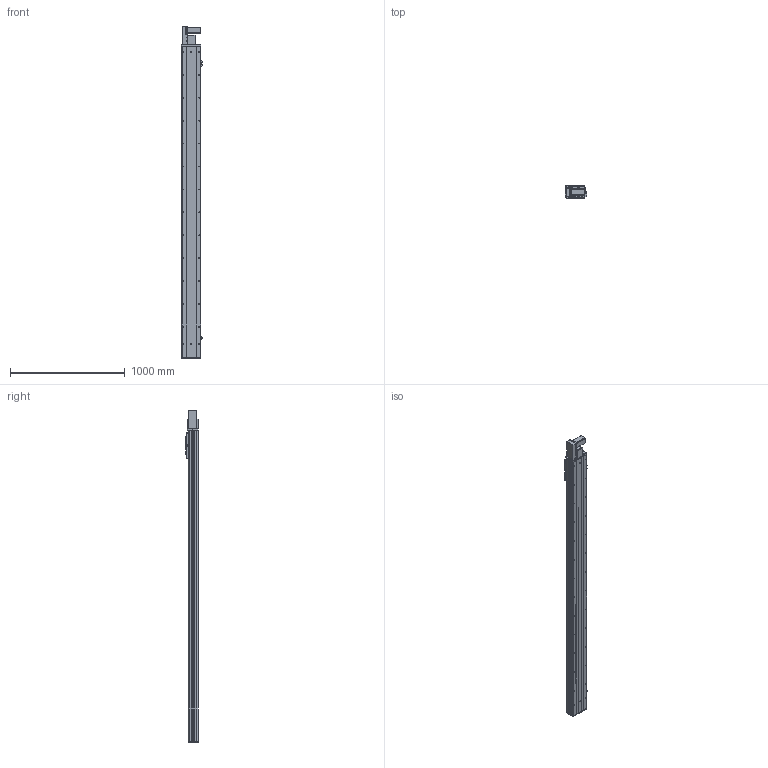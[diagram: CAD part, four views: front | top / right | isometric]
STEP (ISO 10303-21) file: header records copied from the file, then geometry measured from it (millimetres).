
FILE_DESCRIPTION (( 'STEP AP203' ), '1' );
FILE_NAME ('Y170CB-D105-S2400-BL-P400W.STEP', '2020-02-20T01:44:56', ( '微软用户' ), ( '微软中国' ), 'SwSTEP 2.0', 'SolidWorks 2017', '' );
FILE_SCHEMA (( 'CONFIG_CONTROL_DESIGN' ));
Length unit declared in the file: millimetre
Products named in the file (18): 70CB-詩湍--; Y70俋欶BR----; Y100-135俋离換覜ん--; 70CB-掛极-; Y170CB-陔俋离換覜結え---; --70CB --喘謫眊楊擘啣-; 70B喘謫眊----; 70CB-耜裔啣-; Y1埴倛裔; 70C--詩湍揤踡え-; B-源倛裔啣; Y170CB-D105-S2400-BL-P400W; 70CB--耜裔; 17B-耜蚾蟀諉啣----; 70C-雄赽釱-奻-; 0B-萇儂楊擘啣; 0C--雄赽釱俋欶-170; san松下电机400不带刹车----
Assembly tree (21 placements, depth 2):
  Y170CB-D105-S2400-BL-P400W
    B-源倛裔啣
    17B-耜蚾蟀諉啣----
    0B-萇儂楊擘啣
    san松下电机400不带刹车----
    Y70俋欶BR----
    70CB-掛极-
    --70CB --喘謫眊楊擘啣-
    70CB-耜裔啣-  x2
    70C--詩湍揤踡え-  x2
    70CB--耜裔
    70C-雄赽釱-奻-
    0C--雄赽釱俋欶-170
    70CB-詩湍--
    Y100-135俋离換覜ん--  x3
    Y170CB-陔俋离換覜結え---
    70B喘謫眊----
    Y1埴倛裔
Bounding box: 183.5 x 107 x 2897 mm (x, y, z)
Volume: 12049912.8 mm3; surface area: 4348243 mm2
Topology: 21 solids, 21 shells, 1063 faces, 2861 edges, 1898 vertices
Faces by surface type: cylinder 575, plane 464, cone 24
Entity records: 34072 total; most frequent: CARTESIAN_POINT 6276, DIRECTION 5542, ORIENTED_EDGE 5204, EDGE_CURVE 2602, AXIS2_PLACEMENT_3D 2044, VERTEX_POINT 1728, LINE 1454, VECTOR 1454
